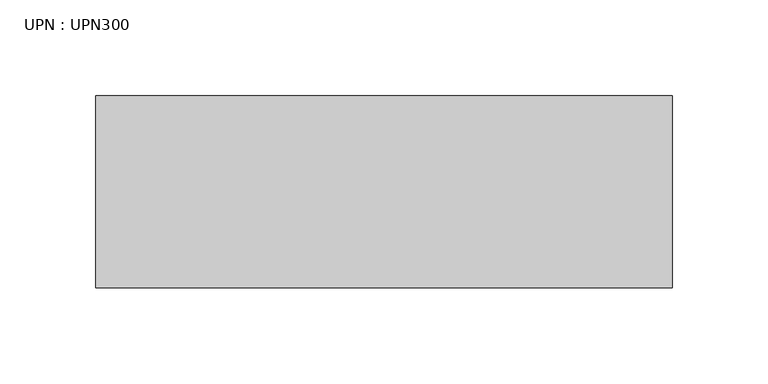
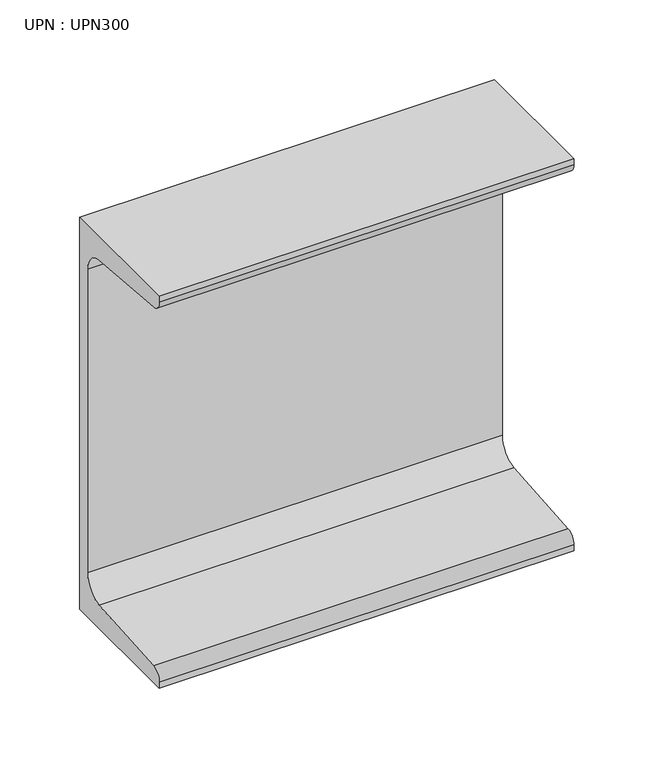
"""IFC4 building model written with IfcOpenShell, lengths in millimetres: beam geometry, UPN : UPN300."""

import ifcopenshell
import ifcopenshell.guid

model = None  # the IFC model being written
_history = None  # IfcOwnerHistory: only IFC2X3 demands one
_inside = {}  # id of a spatial element -> (the spatial element, [elements in it])
_under = {}  # id of a project, library or spatial element -> (it, [spatial elements below it])
_declared = {}  # id of a project -> (the project, [libraries it declares])
_typed = {}  # id of a type object -> (the type object, [elements of that type])
_made_of = {}  # id of a material, layer set ... -> (it, [elements and type objects made of it])


def new_model(schema):
    """Start an empty IFC model of exactly this schema.

    Asked for "IFC4X3", IfcOpenShell would pick the latest addendum, in which some entities
    have other attributes; the version numbers below select the first issue.
    IFC2X3 requires an IfcOwnerHistory on every rooted entity: one is made here for all.
    """
    global model, _history
    if schema == "IFC4X3":
        model = ifcopenshell.file(schema_version=(4, 3, 0, 0))
    else:
        model = ifcopenshell.file(schema=schema)
    _inside.clear()
    _under.clear()
    _declared.clear()
    _typed.clear()
    _made_of.clear()
    _history = None
    if model.schema == "IFC2X3":
        org = make("IfcOrganization", Name="unknown")
        user = make(
            "IfcPersonAndOrganization",
            ThePerson=make("IfcPerson", FamilyName="unknown"),
            TheOrganization=org,
        )
        app = make(
            "IfcApplication",
            ApplicationDeveloper=org,
            Version="unknown",
            ApplicationFullName="unknown",
            ApplicationIdentifier="unknown",
        )
        _history = make(
            "IfcOwnerHistory",
            OwningUser=user,
            OwningApplication=app,
            ChangeAction="ADDED",
            CreationDate=0,
        )
    return model


def make(cls, **values):
    """One entity of the class cls with the attributes given. An attribute that is None is left unset."""
    return model.create_entity(
        cls, **{name: value for name, value in values.items() if value is not None}
    )


def rooted(cls, **values):
    """An entity with a GlobalId (a new one), such as an element, a storey or a relation."""
    return make(cls, GlobalId=ifcopenshell.guid.new(), OwnerHistory=_history, **values)


def si_unit(unit_type, name, prefix=None):
    """IfcSIUnit, for example si_unit("LENGTHUNIT", "METRE", prefix="MILLI")."""
    return make("IfcSIUnit", UnitType=unit_type, Prefix=prefix, Name=name)


def assignment(units):
    """IfcUnitAssignment: the units of a project."""
    return None if units is None else make("IfcUnitAssignment", Units=units)


def point(xyz):
    """IfcCartesianPoint."""
    return None if xyz is None else make("IfcCartesianPoint", Coordinates=xyz)


def direction(xyz):
    """IfcDirection."""
    return None if xyz is None else make("IfcDirection", DirectionRatios=xyz)


def frame(location, z_axis=None, x_axis=None):
    """IfcAxis2Placement3D, a coordinate frame: its origin and axes. An axis left out is left unset."""
    return make(
        "IfcAxis2Placement3D",
        Location=point(location),
        Axis=direction(z_axis),
        RefDirection=direction(x_axis),
    )


def frame_2d(location, x_axis=None):
    """IfcAxis2Placement2D, a coordinate frame in the plane: its origin and x axis."""
    return make(
        "IfcAxis2Placement2D", Location=point(location), RefDirection=direction(x_axis)
    )


def origin():
    """The frame at (0, 0, 0) with its axes left unset."""
    return frame((0.0, 0.0, 0.0))


def place(relative_to, where):
    """IfcLocalPlacement: puts the frame where relative to a parent placement (None: the world)."""
    return make(
        "IfcLocalPlacement", PlacementRelTo=relative_to, RelativePlacement=where
    )


def context(
    kind, dimensions, precision=None, world=None, true_north=None, identifier=None
):
    """IfcGeometricRepresentationContext, for example the 3D "Model" context."""
    return make(
        "IfcGeometricRepresentationContext",
        ContextIdentifier=identifier,
        ContextType=kind,
        CoordinateSpaceDimension=dimensions,
        Precision=precision,
        WorldCoordinateSystem=world,
        TrueNorth=true_north,
    )


def project(units=None, contexts=None):
    """IfcProject with its units and contexts."""
    return rooted(
        "IfcProject",
        Name="project",
        RepresentationContexts=contexts,
        UnitsInContext=assignment(units),
    )


def spatial(cls, under=None, at=None, **own):
    """A site, building, storey or space (cls), placed at a placement, below another one or the project."""
    s = rooted(cls, ObjectPlacement=at, **own)
    if under is not None:
        _under.setdefault(under.id(), (under, []))[1].append(s)
    return s


def polyline(points):
    """IfcPolyline through the points."""
    return make("IfcPolyline", Points=[point(p) for p in points])


def circle_curve(where, radius):
    """IfcCircle in the frame where."""
    return make("IfcCircle", Position=where, Radius=radius)


def trimmed(basis, trim1, trim2, sense, master):
    """IfcTrimmedCurve: the piece of a basis curve between two trims."""
    return make(
        "IfcTrimmedCurve",
        BasisCurve=basis,
        Trim1=trim1,
        Trim2=trim2,
        SenseAgreement=sense,
        MasterRepresentation=master,
    )


def segment(curve, same_sense, transition):
    """IfcCompositeCurveSegment."""
    return make(
        "IfcCompositeCurveSegment",
        Transition=transition,
        SameSense=same_sense,
        ParentCurve=curve,
    )


def composite_curve(segments, self_intersect=None):
    """IfcCompositeCurve: segments joined end to end."""
    return make("IfcCompositeCurve", Segments=segments, SelfIntersect=self_intersect)


def outline(outer, holes=None, kind="AREA"):
    """IfcArbitraryClosedProfileDef: a profile drawn as a closed curve; with holes, ...WithVoids."""
    if holes is None:
        return make("IfcArbitraryClosedProfileDef", ProfileType=kind, OuterCurve=outer)
    return make(
        "IfcArbitraryProfileDefWithVoids",
        ProfileType=kind,
        OuterCurve=outer,
        InnerCurves=holes,
    )


def extrude(swept, where, along, depth):
    """IfcExtrudedAreaSolid: the profile swept, set in the frame where, extruded along a direction by depth."""
    return make(
        "IfcExtrudedAreaSolid",
        SweptArea=swept,
        Position=where,
        ExtrudedDirection=direction(along),
        Depth=depth,
    )


def shape(context_of_items, identifier, shape_type, items):
    """IfcShapeRepresentation: the items that make up one representation, for example the "Body"."""
    return make(
        "IfcShapeRepresentation",
        ContextOfItems=context_of_items,
        RepresentationIdentifier=identifier,
        RepresentationType=shape_type,
        Items=items,
    )


def source(mapping_origin, context_of_items, identifier, shape_type, items):
    """IfcRepresentationMap: a shape defined once, which mapped items show again and again."""
    return make(
        "IfcRepresentationMap",
        MappingOrigin=mapping_origin,
        MappedRepresentation=shape(context_of_items, identifier, shape_type, items),
    )


def transform(
    local_origin,
    x_axis=None,
    y_axis=None,
    z_axis=None,
    scale=None,
    scale2=None,
    scale3=None,
    uniform=True,
):
    """IfcCartesianTransformationOperator3D, or its non-uniform kind. x_axis, y_axis, z_axis: its Axis1, 2, 3."""
    if uniform:
        return make(
            "IfcCartesianTransformationOperator3D",
            Axis1=direction(x_axis),
            Axis2=direction(y_axis),
            LocalOrigin=point(local_origin),
            Scale=scale,
            Axis3=direction(z_axis),
        )
    return make(
        "IfcCartesianTransformationOperator3DnonUniform",
        Axis1=direction(x_axis),
        Axis2=direction(y_axis),
        LocalOrigin=point(local_origin),
        Scale=scale,
        Axis3=direction(z_axis),
        Scale2=scale2,
        Scale3=scale3,
    )


def mapped(mapping_source, mapping_target):
    """IfcMappedItem: shows the shape of a source again, moved by a transform."""
    return make(
        "IfcMappedItem", MappingSource=mapping_source, MappingTarget=mapping_target
    )


def made_of(thing, what):
    """Note that an element or type object is made of a material, layer set ...; save() writes the relation."""
    if what is not None:
        _made_of.setdefault(what.id(), (what, []))[1].append(thing)
    return thing


def element(
    cls,
    number,
    at=None,
    inside=None,
    cuts=None,
    type_object=None,
    material=None,
    context=None,
    identifier="Body",
    shape_type=None,
    held_by="IfcProductDefinitionShape",
    body=None,
    shapes=None,
    **own,
):
    """One element of the class cls, such as IfcWall. Its Tag is "e" and its number.

    at: its placement. inside: the storey or other place that contains it. cuts: it is an
    opening in that element (IfcRelVoidsElement). A single representation is given by context,
    identifier, shape_type and body (its items); several are given by shapes. held_by: the class
    of the entity that holds the representations. save() writes the other relations.
    """
    e = rooted(cls, Tag="e%d" % number, ObjectPlacement=at, **own)
    if body is not None:
        shapes = [shape(context, identifier, shape_type, body)]
    if shapes is not None:
        e.Representation = make(held_by, Representations=shapes)
    if inside is not None:
        _inside.setdefault(inside.id(), (inside, []))[1].append(e)
    if cuts is not None:
        rooted(
            "IfcRelVoidsElement", RelatingBuildingElement=cuts, RelatedOpeningElement=e
        )
    if type_object is not None:
        _typed.setdefault(type_object.id(), (type_object, []))[1].append(e)
    return made_of(e, material)


def aggregate(whole, parts):
    """IfcRelAggregates: a whole, such as a stair, and the parts it consists of."""
    return rooted("IfcRelAggregates", RelatingObject=whole, RelatedObjects=parts)


def save(model, path):
    """Write the relations noted so far, then the file.

    IfcRelAggregates (storeys below a building ...), IfcRelContainedInSpatialStructure (elements
    in a storey), IfcRelDefinesByType, IfcRelAssociatesMaterial and IfcRelDeclares: one each for
    every whole, place, type object, material and project.
    """
    for whole, parts in _under.values():
        aggregate(whole, parts)
    for where, things in _inside.values():
        rooted(
            "IfcRelContainedInSpatialStructure",
            RelatedElements=things,
            RelatingStructure=where,
        )
    for kind, things in _typed.values():
        rooted("IfcRelDefinesByType", RelatedObjects=things, RelatingType=kind)
    for what, things in _made_of.values():
        rooted("IfcRelAssociatesMaterial", RelatedObjects=things, RelatingMaterial=what)
    for by, libraries in _declared.values():
        rooted("IfcRelDeclares", RelatingContext=by, RelatedDefinitions=libraries)
    model.write(path)


def upn_upn300_8d610b51(model_context):
    return source(origin(), model_context, "Body", "SweptSolid", [
        extrude(outline(composite_curve([segment(polyline([(27.0, 150.0), (27.0, -150.0), (-73.0, -150.0), (-73.0, -145.3826224)]), True, "CONTINUOUS"), segment(trimmed(circle_curve(frame_2d((-65.0, -145.3826224)), 8.0), [point((-73.0, -145.3826224))], [point((-65.637416, -137.4080566))], False, "CARTESIAN"), True, "CONTINUOUS"), segment(polyline([(-65.637416, -137.4080566), (2.274832, -131.9797543)]), True, "CONTINUOUS"), segment(trimmed(circle_curve(frame_2d((1.0, -116.0306225)), 16.0), [point((2.274832, -131.9797543))], [point((17.0, -116.0306225))], True, "CARTESIAN"), True, "CONTINUOUS"), segment(polyline([(17.0, -116.0306225), (17.0, 116.0306225)]), True, "CONTINUOUS"), segment(trimmed(circle_curve(frame_2d((1.0, 116.0306225)), 16.0), [point((17.0, 116.0306225))], [point((2.274832, 131.9797543))], True, "CARTESIAN"), True, "CONTINUOUS"), segment(polyline([(2.274832, 131.9797543), (-65.637416, 137.4080566)]), True, "CONTINUOUS"), segment(trimmed(circle_curve(frame_2d((-65.0, 145.3826224)), 8.0), [point((-65.637416, 137.4080566))], [point((-73.0, 145.3826224))], False, "CARTESIAN"), True, "CONTINUOUS"), segment(polyline([(-73.0, 145.3826224), (-73.0, 150.0), (27.0, 150.0)]), True, "CONTINUOUS")], self_intersect=False)), frame((-142.65, 0.0, 0.0), z_axis=(1.0, 0.0, 0.0), x_axis=(0.0, 1.0, 0.0)), (0.0, 0.0, 1.0), 300.4),
    ])


if __name__ == "__main__":
    model = new_model("IFC4")
    model_context = context("Model", 3, world=origin())
    ifc_project = project(units=[si_unit("LENGTHUNIT", "METRE", prefix="MILLI")], contexts=[model_context])
    site = spatial("IfcSite", under=ifc_project)
    building = spatial("IfcBuilding", under=site)
    placement = place(None, origin())
    upn_upn300_shape = upn_upn300_8d610b51(model_context)
    element("IfcBeam", 1, ObjectType="UPN : UPN300", at=placement, inside=building, context=model_context, shape_type="MappedRepresentation", body=[
        mapped(upn_upn300_shape, transform((0.0, 0.0, 0.0), x_axis=(1.0, 0.0, 0.0), y_axis=(0.0, 1.0, 0.0), z_axis=(0.0, 0.0, 1.0))),
    ])
    save(model, "model.ifc")
